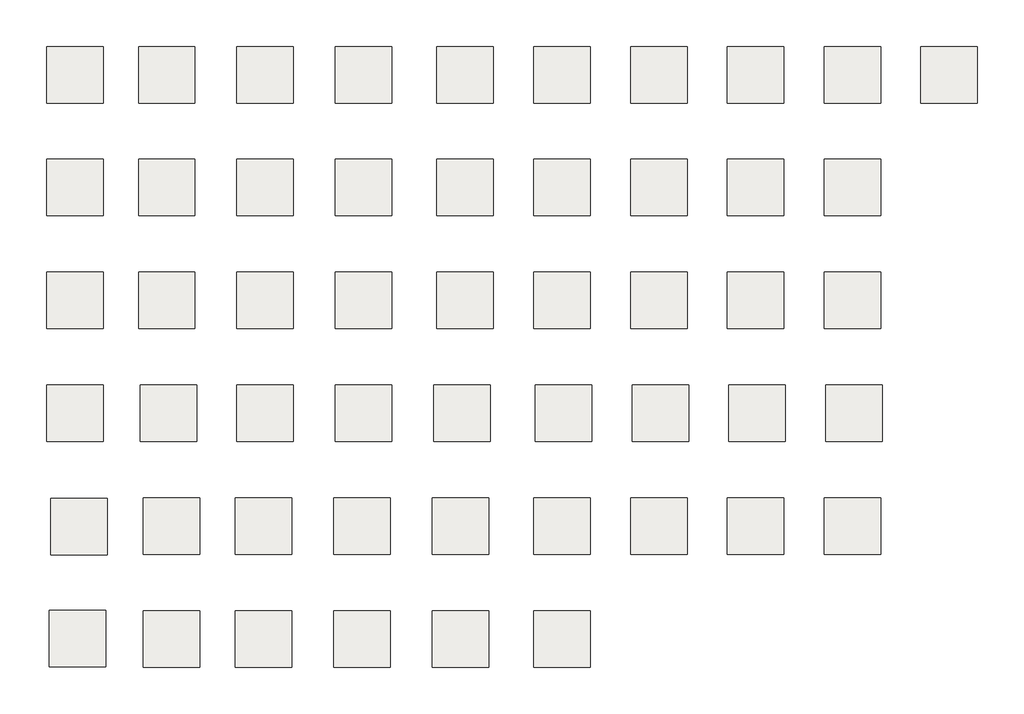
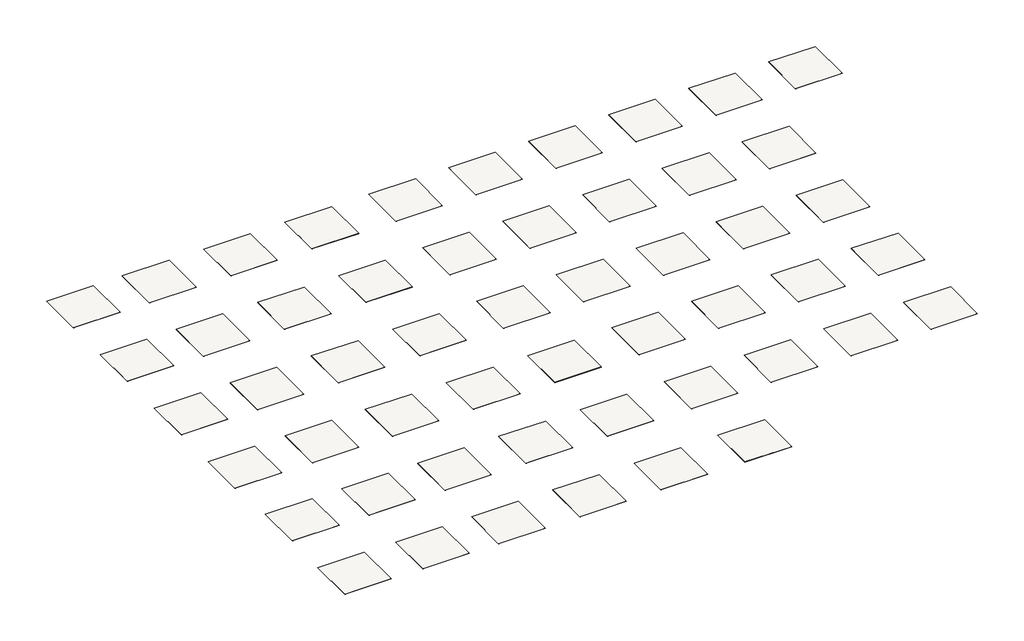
# One storey: 52 slabs.
"""IFC4 building model written with IfcOpenShell, lengths in millimetres."""

import ifcopenshell
import ifcopenshell.guid

model = None  # the IFC model being written
_history = None  # IfcOwnerHistory: only IFC2X3 demands one
_inside = {}  # id of a spatial element -> (the spatial element, [elements in it])
_under = {}  # id of a project, library or spatial element -> (it, [spatial elements below it])
_declared = {}  # id of a project -> (the project, [libraries it declares])
_typed = {}  # id of a type object -> (the type object, [elements of that type])
_made_of = {}  # id of a material, layer set ... -> (it, [elements and type objects made of it])


def new_model(schema):
    """Start an empty IFC model of exactly this schema.

    Asked for "IFC4X3", IfcOpenShell would pick the latest addendum, in which some entities
    have other attributes; the version numbers below select the first issue.
    IFC2X3 requires an IfcOwnerHistory on every rooted entity: one is made here for all.
    """
    global model, _history
    if schema == "IFC4X3":
        model = ifcopenshell.file(schema_version=(4, 3, 0, 0))
    else:
        model = ifcopenshell.file(schema=schema)
    _inside.clear()
    _under.clear()
    _declared.clear()
    _typed.clear()
    _made_of.clear()
    _history = None
    if model.schema == "IFC2X3":
        org = make("IfcOrganization", Name="unknown")
        user = make(
            "IfcPersonAndOrganization",
            ThePerson=make("IfcPerson", FamilyName="unknown"),
            TheOrganization=org,
        )
        app = make(
            "IfcApplication",
            ApplicationDeveloper=org,
            Version="unknown",
            ApplicationFullName="unknown",
            ApplicationIdentifier="unknown",
        )
        _history = make(
            "IfcOwnerHistory",
            OwningUser=user,
            OwningApplication=app,
            ChangeAction="ADDED",
            CreationDate=0,
        )
    return model


def make(cls, **values):
    """One entity of the class cls with the attributes given. An attribute that is None is left unset."""
    return model.create_entity(
        cls, **{name: value for name, value in values.items() if value is not None}
    )


def rooted(cls, **values):
    """An entity with a GlobalId (a new one), such as an element, a storey or a relation."""
    return make(cls, GlobalId=ifcopenshell.guid.new(), OwnerHistory=_history, **values)


def si_unit(unit_type, name, prefix=None):
    """IfcSIUnit, for example si_unit("LENGTHUNIT", "METRE", prefix="MILLI")."""
    return make("IfcSIUnit", UnitType=unit_type, Prefix=prefix, Name=name)


def assignment(units):
    """IfcUnitAssignment: the units of a project."""
    return None if units is None else make("IfcUnitAssignment", Units=units)


def point(xyz):
    """IfcCartesianPoint."""
    return None if xyz is None else make("IfcCartesianPoint", Coordinates=xyz)


def direction(xyz):
    """IfcDirection."""
    return None if xyz is None else make("IfcDirection", DirectionRatios=xyz)


def frame(location, z_axis=None, x_axis=None):
    """IfcAxis2Placement3D, a coordinate frame: its origin and axes. An axis left out is left unset."""
    return make(
        "IfcAxis2Placement3D",
        Location=point(location),
        Axis=direction(z_axis),
        RefDirection=direction(x_axis),
    )


def origin():
    """The frame at (0, 0, 0) with its axes left unset."""
    return frame((0.0, 0.0, 0.0))


def place(relative_to, where):
    """IfcLocalPlacement: puts the frame where relative to a parent placement (None: the world)."""
    return make(
        "IfcLocalPlacement", PlacementRelTo=relative_to, RelativePlacement=where
    )


def context(
    kind, dimensions, precision=None, world=None, true_north=None, identifier=None
):
    """IfcGeometricRepresentationContext, for example the 3D "Model" context."""
    return make(
        "IfcGeometricRepresentationContext",
        ContextIdentifier=identifier,
        ContextType=kind,
        CoordinateSpaceDimension=dimensions,
        Precision=precision,
        WorldCoordinateSystem=world,
        TrueNorth=true_north,
    )


def project(units=None, contexts=None):
    """IfcProject with its units and contexts."""
    return rooted(
        "IfcProject",
        Name="project",
        RepresentationContexts=contexts,
        UnitsInContext=assignment(units),
    )


def spatial(cls, under=None, at=None, **own):
    """A site, building, storey or space (cls), placed at a placement, below another one or the project."""
    s = rooted(cls, ObjectPlacement=at, **own)
    if under is not None:
        _under.setdefault(under.id(), (under, []))[1].append(s)
    return s


def polyline(points):
    """IfcPolyline through the points."""
    return make("IfcPolyline", Points=[point(p) for p in points])


def outline(outer, holes=None, kind="AREA"):
    """IfcArbitraryClosedProfileDef: a profile drawn as a closed curve; with holes, ...WithVoids."""
    if holes is None:
        return make("IfcArbitraryClosedProfileDef", ProfileType=kind, OuterCurve=outer)
    return make(
        "IfcArbitraryProfileDefWithVoids",
        ProfileType=kind,
        OuterCurve=outer,
        InnerCurves=holes,
    )


def extrude(swept, where, along, depth):
    """IfcExtrudedAreaSolid: the profile swept, set in the frame where, extruded along a direction by depth."""
    return make(
        "IfcExtrudedAreaSolid",
        SweptArea=swept,
        Position=where,
        ExtrudedDirection=direction(along),
        Depth=depth,
    )


def shape(context_of_items, identifier, shape_type, items):
    """IfcShapeRepresentation: the items that make up one representation, for example the "Body"."""
    return make(
        "IfcShapeRepresentation",
        ContextOfItems=context_of_items,
        RepresentationIdentifier=identifier,
        RepresentationType=shape_type,
        Items=items,
    )


def made_of(thing, what):
    """Note that an element or type object is made of a material, layer set ...; save() writes the relation."""
    if what is not None:
        _made_of.setdefault(what.id(), (what, []))[1].append(thing)
    return thing


def element(
    cls,
    number,
    at=None,
    inside=None,
    cuts=None,
    type_object=None,
    material=None,
    context=None,
    identifier="Body",
    shape_type=None,
    held_by="IfcProductDefinitionShape",
    body=None,
    shapes=None,
    **own,
):
    """One element of the class cls, such as IfcWall. Its Tag is "e" and its number.

    at: its placement. inside: the storey or other place that contains it. cuts: it is an
    opening in that element (IfcRelVoidsElement). A single representation is given by context,
    identifier, shape_type and body (its items); several are given by shapes. held_by: the class
    of the entity that holds the representations. save() writes the other relations.
    """
    e = rooted(cls, Tag="e%d" % number, ObjectPlacement=at, **own)
    if body is not None:
        shapes = [shape(context, identifier, shape_type, body)]
    if shapes is not None:
        e.Representation = make(held_by, Representations=shapes)
    if inside is not None:
        _inside.setdefault(inside.id(), (inside, []))[1].append(e)
    if cuts is not None:
        rooted(
            "IfcRelVoidsElement", RelatingBuildingElement=cuts, RelatedOpeningElement=e
        )
    if type_object is not None:
        _typed.setdefault(type_object.id(), (type_object, []))[1].append(e)
    return made_of(e, material)


def aggregate(whole, parts):
    """IfcRelAggregates: a whole, such as a stair, and the parts it consists of."""
    return rooted("IfcRelAggregates", RelatingObject=whole, RelatedObjects=parts)


def save(model, path):
    """Write the relations noted so far, then the file.

    IfcRelAggregates (storeys below a building ...), IfcRelContainedInSpatialStructure (elements
    in a storey), IfcRelDefinesByType, IfcRelAssociatesMaterial and IfcRelDeclares: one each for
    every whole, place, type object, material and project.
    """
    for whole, parts in _under.values():
        aggregate(whole, parts)
    for where, things in _inside.values():
        rooted(
            "IfcRelContainedInSpatialStructure",
            RelatedElements=things,
            RelatingStructure=where,
        )
    for kind, things in _typed.values():
        rooted("IfcRelDefinesByType", RelatedObjects=things, RelatingType=kind)
    for what, things in _made_of.values():
        rooted("IfcRelAssociatesMaterial", RelatedObjects=things, RelatingMaterial=what)
    for by, libraries in _declared.values():
        rooted("IfcRelDeclares", RelatingContext=by, RelatedDefinitions=libraries)
    model.write(path)


model = new_model("IFC4")

# Units and contexts
model_context = context("Model", 3, world=origin())
ifc_project = project(units=[si_unit("LENGTHUNIT", "METRE", prefix="MILLI")], contexts=[model_context])

# Site, building, storey
site = spatial("IfcSite", under=ifc_project)
building = spatial("IfcBuilding", under=site)
storey = spatial("IfcBuildingStorey", under=building, Name="Sphera Element homogeneous vinyl", Elevation=0.0)

# Slabs
placement = place(None, origin())
element("IfcSlab", 1, ObjectType="Forbo_Vinyl_Sphera_Element_Collection_50000_White_mm", at=placement, inside=storey, context=model_context, shape_type="SweptSolid", body=[
    extrude(outline(polyline([(-15235.4659113, 5657.9947387), (-15235.4659113, 4957.9947387), (-15935.4659113, 4957.9947387), (-15935.4659113, 5657.9947387), (-15235.4659113, 5657.9947387)])), frame((0.0, 0.0, -2.0), z_axis=(0.0, 0.0, 1.0), x_axis=(1.0, 0.0, 0.0)), (0.0, 0.0, 1.0), 2.0),
])
element("IfcSlab", 2, ObjectType="Forbo_Vinyl_Sphera_Element_Collection_50003_Light-neutral-grey_mm", at=placement, inside=storey, context=model_context, shape_type="SweptSolid", body=[
    extrude(outline(polyline([(-14095.4659113, 5657.9947387), (-14095.4659113, 4957.9947387), (-14795.4659113, 4957.9947387), (-14795.4659113, 5657.9947387), (-14095.4659113, 5657.9947387)])), frame((0.0, 0.0, -2.0), z_axis=(0.0, 0.0, 1.0), x_axis=(1.0, 0.0, 0.0)), (0.0, 0.0, 1.0), 2.0),
])
element("IfcSlab", 3, ObjectType="Forbo_Vinyl_Sphera_Element_Collection_50004_Mid-neutral-grey_mm", at=placement, inside=storey, context=model_context, shape_type="SweptSolid", body=[
    extrude(outline(polyline([(-12875.4659113, 5657.9947387), (-12875.4659113, 4957.9947387), (-13575.4659113, 4957.9947387), (-13575.4659113, 5657.9947387), (-12875.4659113, 5657.9947387)])), frame((0.0, 0.0, -2.0), z_axis=(0.0, 0.0, 1.0), x_axis=(1.0, 0.0, 0.0)), (0.0, 0.0, 1.0), 2.0),
])
element("IfcSlab", 4, ObjectType="Forbo_Vinyl_Sphera_Element_Collection_50005_Dark-neutral-grey_mm", at=placement, inside=storey, context=model_context, shape_type="SweptSolid", body=[
    extrude(outline(polyline([(-11655.4659113, 5657.9947387), (-11655.4659113, 4957.9947387), (-12355.4659113, 4957.9947387), (-12355.4659113, 5657.9947387), (-11655.4659113, 5657.9947387)])), frame((0.0, 0.0, -2.0), z_axis=(0.0, 0.0, 1.0), x_axis=(1.0, 0.0, 0.0)), (0.0, 0.0, 1.0), 2.0),
])
element("IfcSlab", 5, ObjectType="Forbo_Vinyl_Sphera_Element_Collection_50006_Anthracite_mm", at=placement, inside=storey, context=model_context, shape_type="SweptSolid", body=[
    extrude(outline(polyline([(-10395.4659113, 5657.9947387), (-10395.4659113, 4957.9947387), (-11095.4659113, 4957.9947387), (-11095.4659113, 5657.9947387), (-10395.4659113, 5657.9947387)])), frame((0.0, 0.0, -2.0), z_axis=(0.0, 0.0, 1.0), x_axis=(1.0, 0.0, 0.0)), (0.0, 0.0, 1.0), 2.0),
])
element("IfcSlab", 6, ObjectType="Forbo_Vinyl_Sphera_Element_Collection_50008_Silver-grey_mm", at=placement, inside=storey, context=model_context, shape_type="SweptSolid", body=[
    extrude(outline(polyline([(-7995.4659113, 5657.9947387), (-7995.4659113, 4957.9947387), (-8695.4659113, 4957.9947387), (-8695.4659113, 5657.9947387), (-7995.4659113, 5657.9947387)])), frame((0.0, 0.0, -2.0), z_axis=(0.0, 0.0, 1.0), x_axis=(1.0, 0.0, 0.0)), (0.0, 0.0, 1.0), 2.0),
])
element("IfcSlab", 7, ObjectType="Forbo_Vinyl_Sphera_Element_Collection_50009_Lead_mm", at=placement, inside=storey, context=model_context, shape_type="SweptSolid", body=[
    extrude(outline(polyline([(-6795.4659113, 5657.9947387), (-6795.4659113, 4957.9947387), (-7495.4659113, 4957.9947387), (-7495.4659113, 5657.9947387), (-6795.4659113, 5657.9947387)])), frame((0.0, 0.0, -2.0), z_axis=(0.0, 0.0, 1.0), x_axis=(1.0, 0.0, 0.0)), (0.0, 0.0, 1.0), 2.0),
])
element("IfcSlab", 8, ObjectType="Forbo_Vinyl_Sphera_Element_Collection_50010_Iron_mm", at=placement, inside=storey, context=model_context, shape_type="SweptSolid", body=[
    extrude(outline(polyline([(-5595.4659113, 5657.9947387), (-5595.4659113, 4957.9947387), (-6295.4659113, 4957.9947387), (-6295.4659113, 5657.9947387), (-5595.4659113, 5657.9947387)])), frame((0.0, 0.0, -2.0), z_axis=(0.0, 0.0, 1.0), x_axis=(1.0, 0.0, 0.0)), (0.0, 0.0, 1.0), 2.0),
])
element("IfcSlab", 9, ObjectType="Forbo_Vinyl_Sphera_Element_Collection_50011_Steel_mm", at=placement, inside=storey, context=model_context, shape_type="SweptSolid", body=[
    extrude(outline(polyline([(-4395.4659113, 5657.9947387), (-4395.4659113, 4957.9947387), (-5095.4659113, 4957.9947387), (-5095.4659113, 5657.9947387), (-4395.4659113, 5657.9947387)])), frame((0.0, 0.0, -2.0), z_axis=(0.0, 0.0, 1.0), x_axis=(1.0, 0.0, 0.0)), (0.0, 0.0, 1.0), 2.0),
])
element("IfcSlab", 10, ObjectType="Forbo_Vinyl_Sphera_Element_Collection_50017_Ivory_mm", at=placement, inside=storey, context=model_context, shape_type="SweptSolid", body=[
    extrude(outline(polyline([(-15235.4659113, 4257.9947387), (-15235.4659113, 3557.9947387), (-15935.4659113, 3557.9947387), (-15935.4659113, 4257.9947387), (-15235.4659113, 4257.9947387)])), frame((0.0, 0.0, -2.0), z_axis=(0.0, 0.0, 1.0), x_axis=(1.0, 0.0, 0.0)), (0.0, 0.0, 1.0), 2.0),
])
element("IfcSlab", 11, ObjectType="Forbo_Vinyl_Sphera_Element_Collection_50018_Mortar_mm", at=placement, inside=storey, context=model_context, shape_type="SweptSolid", body=[
    extrude(outline(polyline([(-14095.4659113, 4257.9947387), (-14095.4659113, 3557.9947387), (-14795.4659113, 3557.9947387), (-14795.4659113, 4257.9947387), (-14095.4659113, 4257.9947387)])), frame((0.0, 0.0, -2.0), z_axis=(0.0, 0.0, 1.0), x_axis=(1.0, 0.0, 0.0)), (0.0, 0.0, 1.0), 2.0),
])
element("IfcSlab", 12, ObjectType="Forbo_Vinyl_Sphera_Element_Collection_50019_Clay_mm", at=placement, inside=storey, context=model_context, shape_type="SweptSolid", body=[
    extrude(outline(polyline([(-12875.4659113, 4257.9947387), (-12875.4659113, 3557.9947387), (-13575.4659113, 3557.9947387), (-13575.4659113, 4257.9947387), (-12875.4659113, 4257.9947387)])), frame((0.0, 0.0, -2.0), z_axis=(0.0, 0.0, 1.0), x_axis=(1.0, 0.0, 0.0)), (0.0, 0.0, 1.0), 2.0),
])
element("IfcSlab", 13, ObjectType="Forbo_Vinyl_Sphera_Element_Collection_50020_Silt_mm", at=placement, inside=storey, context=model_context, shape_type="SweptSolid", body=[
    extrude(outline(polyline([(-11655.4659113, 4257.9947387), (-11655.4659113, 3557.9947387), (-12355.4659113, 3557.9947387), (-12355.4659113, 4257.9947387), (-11655.4659113, 4257.9947387)])), frame((0.0, 0.0, -2.0), z_axis=(0.0, 0.0, 1.0), x_axis=(1.0, 0.0, 0.0)), (0.0, 0.0, 1.0), 2.0),
])
element("IfcSlab", 14, ObjectType="Forbo_Vinyl_Sphera_Element_Collection_50022_Shell_mm", at=placement, inside=storey, context=model_context, shape_type="SweptSolid", body=[
    extrude(outline(polyline([(-10395.4659113, 4257.9947387), (-10395.4659113, 3557.9947387), (-11095.4659113, 3557.9947387), (-11095.4659113, 4257.9947387), (-10395.4659113, 4257.9947387)])), frame((0.0, 0.0, -2.0), z_axis=(0.0, 0.0, 1.0), x_axis=(1.0, 0.0, 0.0)), (0.0, 0.0, 1.0), 2.0),
])
element("IfcSlab", 15, ObjectType="Forbo_Vinyl_Sphera_Element_Collection_50023_Sand_mm", at=placement, inside=storey, context=model_context, shape_type="SweptSolid", body=[
    extrude(outline(polyline([(-9195.4659113, 4257.9947387), (-9195.4659113, 3557.9947387), (-9895.4659113, 3557.9947387), (-9895.4659113, 4257.9947387), (-9195.4659113, 4257.9947387)])), frame((0.0, 0.0, -2.0), z_axis=(0.0, 0.0, 1.0), x_axis=(1.0, 0.0, 0.0)), (0.0, 0.0, 1.0), 2.0),
])
element("IfcSlab", 16, ObjectType="Forbo_Vinyl_Sphera_Element_Collection_50024_Stone_mm", at=placement, inside=storey, context=model_context, shape_type="SweptSolid", body=[
    extrude(outline(polyline([(-7995.4659113, 4257.9947387), (-7995.4659113, 3557.9947387), (-8695.4659113, 3557.9947387), (-8695.4659113, 4257.9947387), (-7995.4659113, 4257.9947387)])), frame((0.0, 0.0, -2.0), z_axis=(0.0, 0.0, 1.0), x_axis=(1.0, 0.0, 0.0)), (0.0, 0.0, 1.0), 2.0),
])
element("IfcSlab", 17, ObjectType="Forbo_Vinyl_Sphera_Element_Collection_50025_Earth_mm", at=placement, inside=storey, context=model_context, shape_type="SweptSolid", body=[
    extrude(outline(polyline([(-6795.4659113, 4257.9947387), (-6795.4659113, 3557.9947387), (-7495.4659113, 3557.9947387), (-7495.4659113, 4257.9947387), (-6795.4659113, 4257.9947387)])), frame((0.0, 0.0, -2.0), z_axis=(0.0, 0.0, 1.0), x_axis=(1.0, 0.0, 0.0)), (0.0, 0.0, 1.0), 2.0),
])
element("IfcSlab", 18, ObjectType="Forbo_Vinyl_Sphera_Element_Collection_50028_Greige_mm", at=placement, inside=storey, context=model_context, shape_type="SweptSolid", body=[
    extrude(outline(polyline([(-5595.4659113, 4257.9947387), (-5595.4659113, 3557.9947387), (-6295.4659113, 3557.9947387), (-6295.4659113, 4257.9947387), (-5595.4659113, 4257.9947387)])), frame((0.0, 0.0, -2.0), z_axis=(0.0, 0.0, 1.0), x_axis=(1.0, 0.0, 0.0)), (0.0, 0.0, 1.0), 2.0),
])
element("IfcSlab", 19, ObjectType="Forbo_Vinyl_Sphera_Element_Collection_50029_Taupe_mm", at=placement, inside=storey, context=model_context, shape_type="SweptSolid", body=[
    extrude(outline(polyline([(-15235.4659113, 2857.9947387), (-15235.4659113, 2157.9947387), (-15935.4659113, 2157.9947387), (-15935.4659113, 2857.9947387), (-15235.4659113, 2857.9947387)])), frame((0.0, 0.0, -2.0), z_axis=(0.0, 0.0, 1.0), x_axis=(1.0, 0.0, 0.0)), (0.0, 0.0, 1.0), 2.0),
])
element("IfcSlab", 20, ObjectType="Forbo_Vinyl_Sphera_Element_Collection_50037_China-blue_mm", at=placement, inside=storey, context=model_context, shape_type="SweptSolid", body=[
    extrude(outline(polyline([(-14095.4659113, 2857.9947387), (-14095.4659113, 2157.9947387), (-14795.4659113, 2157.9947387), (-14795.4659113, 2857.9947387), (-14095.4659113, 2857.9947387)])), frame((0.0, 0.0, -2.0), z_axis=(0.0, 0.0, 1.0), x_axis=(1.0, 0.0, 0.0)), (0.0, 0.0, 1.0), 2.0),
])
element("IfcSlab", 21, ObjectType="Forbo_Vinyl_Sphera_Element_Collection_50038_Blueberry_mm", at=placement, inside=storey, context=model_context, shape_type="SweptSolid", body=[
    extrude(outline(polyline([(-12875.4659113, 2857.9947387), (-12875.4659113, 2157.9947387), (-13575.4659113, 2157.9947387), (-13575.4659113, 2857.9947387), (-12875.4659113, 2857.9947387)])), frame((0.0, 0.0, -2.0), z_axis=(0.0, 0.0, 1.0), x_axis=(1.0, 0.0, 0.0)), (0.0, 0.0, 1.0), 2.0),
])
element("IfcSlab", 22, ObjectType="Forbo_Vinyl_Sphera_Element_Collection_50062_Storm-grey_mm", at=placement, inside=storey, context=model_context, shape_type="SweptSolid", body=[
    extrude(outline(polyline([(-11655.4659113, 2857.9947387), (-11655.4659113, 2157.9947387), (-12355.4659113, 2157.9947387), (-12355.4659113, 2857.9947387), (-11655.4659113, 2857.9947387)])), frame((0.0, 0.0, -2.0), z_axis=(0.0, 0.0, 1.0), x_axis=(1.0, 0.0, 0.0)), (0.0, 0.0, 1.0), 2.0),
])
element("IfcSlab", 23, ObjectType="Forbo_Vinyl_Sphera_Element_Collection_50063_White-moss_mm", at=placement, inside=storey, context=model_context, shape_type="SweptSolid", body=[
    extrude(outline(polyline([(-10395.4659113, 2857.9947387), (-10395.4659113, 2157.9947387), (-11095.4659113, 2157.9947387), (-11095.4659113, 2857.9947387), (-10395.4659113, 2857.9947387)])), frame((0.0, 0.0, -2.0), z_axis=(0.0, 0.0, 1.0), x_axis=(1.0, 0.0, 0.0)), (0.0, 0.0, 1.0), 2.0),
])
element("IfcSlab", 24, ObjectType="Forbo_Vinyl_Sphera_Element_Collection_50064_Light-moss_mm", at=placement, inside=storey, context=model_context, shape_type="SweptSolid", body=[
    extrude(outline(polyline([(-9195.4659113, 2857.9947387), (-9195.4659113, 2157.9947387), (-9895.4659113, 2157.9947387), (-9895.4659113, 2857.9947387), (-9195.4659113, 2857.9947387)])), frame((0.0, 0.0, -2.0), z_axis=(0.0, 0.0, 1.0), x_axis=(1.0, 0.0, 0.0)), (0.0, 0.0, 1.0), 2.0),
])
element("IfcSlab", 25, ObjectType="Forbo_Vinyl_Sphera_Element_Collection_50065_Moss_mm", at=placement, inside=storey, context=model_context, shape_type="SweptSolid", body=[
    extrude(outline(polyline([(-7995.4659113, 2857.9947387), (-7995.4659113, 2157.9947387), (-8695.4659113, 2157.9947387), (-8695.4659113, 2857.9947387), (-7995.4659113, 2857.9947387)])), frame((0.0, 0.0, -2.0), z_axis=(0.0, 0.0, 1.0), x_axis=(1.0, 0.0, 0.0)), (0.0, 0.0, 1.0), 2.0),
])
element("IfcSlab", 26, ObjectType="Forbo_Vinyl_Sphera_Element_Collection_50066_Flax_mm", at=placement, inside=storey, context=model_context, shape_type="SweptSolid", body=[
    extrude(outline(polyline([(-6795.4659113, 2857.9947387), (-6795.4659113, 2157.9947387), (-7495.4659113, 2157.9947387), (-7495.4659113, 2857.9947387), (-6795.4659113, 2857.9947387)])), frame((0.0, 0.0, -2.0), z_axis=(0.0, 0.0, 1.0), x_axis=(1.0, 0.0, 0.0)), (0.0, 0.0, 1.0), 2.0),
])
element("IfcSlab", 27, ObjectType="Forbo_Vinyl_Sphera_Element_Collection_50067_Straw_mm", at=placement, inside=storey, context=model_context, shape_type="SweptSolid", body=[
    extrude(outline(polyline([(-5595.4659113, 2857.9947387), (-5595.4659113, 2157.9947387), (-6295.4659113, 2157.9947387), (-6295.4659113, 2857.9947387), (-5595.4659113, 2857.9947387)])), frame((0.0, 0.0, -2.0), z_axis=(0.0, 0.0, 1.0), x_axis=(1.0, 0.0, 0.0)), (0.0, 0.0, 1.0), 2.0),
])
element("IfcSlab", 28, ObjectType="Forbo_Vinyl_Sphera_Element_Collection_50068_Hay_mm", at=placement, inside=storey, context=model_context, shape_type="SweptSolid", body=[
    extrude(outline(polyline([(-15235.4659113, 1457.9947387), (-15235.4659113, 757.9947387), (-15935.4659113, 757.9947387), (-15935.4659113, 1457.9947387), (-15235.4659113, 1457.9947387)])), frame((0.0, 0.0, -2.0), z_axis=(0.0, 0.0, 1.0), x_axis=(1.0, 0.0, 0.0)), (0.0, 0.0, 1.0), 2.0),
])
element("IfcSlab", 29, ObjectType="Forbo_Vinyl_Sphera_Element_Collection_50070_Soft-violet_mm", at=placement, inside=storey, context=model_context, shape_type="SweptSolid", body=[
    extrude(outline(polyline([(-12875.4659113, 1457.9947387), (-12875.4659113, 757.9947387), (-13575.4659113, 757.9947387), (-13575.4659113, 1457.9947387), (-12875.4659113, 1457.9947387)])), frame((0.0, 0.0, -2.0), z_axis=(0.0, 0.0, 1.0), x_axis=(1.0, 0.0, 0.0)), (0.0, 0.0, 1.0), 2.0),
])
element("IfcSlab", 30, ObjectType="Forbo_Vinyl_Sphera_Element_Collection_50071_Violet_mm", at=placement, inside=storey, context=model_context, shape_type="SweptSolid", body=[
    extrude(outline(polyline([(-11655.4659113, 1457.9947387), (-11655.4659113, 757.9947387), (-12355.4659113, 757.9947387), (-12355.4659113, 1457.9947387), (-11655.4659113, 1457.9947387)])), frame((0.0, 0.0, -2.0), z_axis=(0.0, 0.0, 1.0), x_axis=(1.0, 0.0, 0.0)), (0.0, 0.0, 1.0), 2.0),
])
element("IfcSlab", 31, ObjectType="Forbo_Vinyl_Sphera_Element_Collection_50072_Light-peach_mm", at=placement, inside=storey, context=model_context, shape_type="SweptSolid", body=[
    extrude(outline(polyline([(-10435.4659113, 1457.9947387), (-10435.4659113, 757.9947387), (-11135.4659113, 757.9947387), (-11135.4659113, 1457.9947387), (-10435.4659113, 1457.9947387)])), frame((0.0, 0.0, -2.0), z_axis=(0.0, 0.0, 1.0), x_axis=(1.0, 0.0, 0.0)), (0.0, 0.0, 1.0), 2.0),
])
element("IfcSlab", 32, ObjectType="Forbo_Vinyl_Sphera_Element_Collection_50073_Peach_mm", at=placement, inside=storey, context=model_context, shape_type="SweptSolid", body=[
    extrude(outline(polyline([(-9175.4659113, 1457.9947387), (-9175.4659113, 757.9947387), (-9875.4659113, 757.9947387), (-9875.4659113, 1457.9947387), (-9175.4659113, 1457.9947387)])), frame((0.0, 0.0, -2.0), z_axis=(0.0, 0.0, 1.0), x_axis=(1.0, 0.0, 0.0)), (0.0, 0.0, 1.0), 2.0),
])
element("IfcSlab", 33, ObjectType="Forbo_Vinyl_Sphera_Element_Collection_50074_Dark-peach_mm", at=placement, inside=storey, context=model_context, shape_type="SweptSolid", body=[
    extrude(outline(polyline([(-7975.4659113, 1457.9947387), (-7975.4659113, 757.9947387), (-8675.4659113, 757.9947387), (-8675.4659113, 1457.9947387), (-7975.4659113, 1457.9947387)])), frame((0.0, 0.0, -2.0), z_axis=(0.0, 0.0, 1.0), x_axis=(1.0, 0.0, 0.0)), (0.0, 0.0, 1.0), 2.0),
])
element("IfcSlab", 34, ObjectType="Forbo_Vinyl_Sphera_Element_Collection_50075_Hibiscus_mm", at=placement, inside=storey, context=model_context, shape_type="SweptSolid", body=[
    extrude(outline(polyline([(-6775.4659113, 1457.9947387), (-6775.4659113, 757.9947387), (-7475.4659113, 757.9947387), (-7475.4659113, 1457.9947387), (-6775.4659113, 1457.9947387)])), frame((0.0, 0.0, -2.0), z_axis=(0.0, 0.0, 1.0), x_axis=(1.0, 0.0, 0.0)), (0.0, 0.0, 1.0), 2.0),
])
element("IfcSlab", 35, ObjectType="Forbo_Vinyl_Sphera_Element_Collection_50076_Pastel-kelp_mm", at=placement, inside=storey, context=model_context, shape_type="SweptSolid", body=[
    extrude(outline(polyline([(-5575.4659113, 1457.9947387), (-5575.4659113, 757.9947387), (-6275.4659113, 757.9947387), (-6275.4659113, 1457.9947387), (-5575.4659113, 1457.9947387)])), frame((0.0, 0.0, -2.0), z_axis=(0.0, 0.0, 1.0), x_axis=(1.0, 0.0, 0.0)), (0.0, 0.0, 1.0), 2.0),
])
element("IfcSlab", 36, ObjectType="Forbo_Vinyl_Sphera_Element_Collection_50077_Kelp_mm", at=placement, inside=storey, context=model_context, shape_type="SweptSolid", body=[
    extrude(outline(polyline([(-15184.5238471, 52.9087835), (-15184.5238471, -647.0912165), (-15884.5238471, -647.0912165), (-15884.5238471, 52.9087835), (-15184.5238471, 52.9087835)])), frame((0.0, 0.0, -2.0), z_axis=(0.0, 0.0, 1.0), x_axis=(1.0, 0.0, 0.0)), (0.0, 0.0, 1.0), 2.0),
])
element("IfcSlab", 37, ObjectType="Forbo_Vinyl_Sphera_Element_Collection_50078_Dark-kelp_mm", at=placement, inside=storey, context=model_context, shape_type="SweptSolid", body=[
    extrude(outline(polyline([(-14035.4659113, 57.9947387), (-14035.4659113, -642.0052613), (-14735.4659113, -642.0052613), (-14735.4659113, 57.9947387), (-14035.4659113, 57.9947387)])), frame((0.0, 0.0, -2.0), z_axis=(0.0, 0.0, 1.0), x_axis=(1.0, 0.0, 0.0)), (0.0, 0.0, 1.0), 2.0),
])
element("IfcSlab", 38, ObjectType="Forbo_Vinyl_Sphera_Element_Collection_50079_Lagoon_mm", at=placement, inside=storey, context=model_context, shape_type="SweptSolid", body=[
    extrude(outline(polyline([(-12895.4659113, 57.9947387), (-12895.4659113, -642.0052613), (-13595.4659113, -642.0052613), (-13595.4659113, 57.9947387), (-12895.4659113, 57.9947387)])), frame((0.0, 0.0, -2.0), z_axis=(0.0, 0.0, 1.0), x_axis=(1.0, 0.0, 0.0)), (0.0, 0.0, 1.0), 2.0),
])
element("IfcSlab", 39, ObjectType="Forbo_Vinyl_Sphera_Element_Collection_50080_Reef-green_mm", at=placement, inside=storey, context=model_context, shape_type="SweptSolid", body=[
    extrude(outline(polyline([(-11675.4659113, 57.9947387), (-11675.4659113, -642.0052613), (-12375.4659113, -642.0052613), (-12375.4659113, 57.9947387), (-11675.4659113, 57.9947387)])), frame((0.0, 0.0, -2.0), z_axis=(0.0, 0.0, 1.0), x_axis=(1.0, 0.0, 0.0)), (0.0, 0.0, 1.0), 2.0),
])
element("IfcSlab", 40, ObjectType="Forbo_Vinyl_Sphera_Element_Collection_50081_Ocean_mm", at=placement, inside=storey, context=model_context, shape_type="SweptSolid", body=[
    extrude(outline(polyline([(-10455.4659113, 57.9947387), (-10455.4659113, -642.0052613), (-11155.4659113, -642.0052613), (-11155.4659113, 57.9947387), (-10455.4659113, 57.9947387)])), frame((0.0, 0.0, -2.0), z_axis=(0.0, 0.0, 1.0), x_axis=(1.0, 0.0, 0.0)), (0.0, 0.0, 1.0), 2.0),
])
element("IfcSlab", 41, ObjectType="Forbo_Vinyl_Sphera_Element_Collection_50082_Lavender-grey_mm", at=placement, inside=storey, context=model_context, shape_type="SweptSolid", body=[
    extrude(outline(polyline([(-9195.4659113, 57.9947387), (-9195.4659113, -642.0052613), (-9895.4659113, -642.0052613), (-9895.4659113, 57.9947387), (-9195.4659113, 57.9947387)])), frame((0.0, 0.0, -2.0), z_axis=(0.0, 0.0, 1.0), x_axis=(1.0, 0.0, 0.0)), (0.0, 0.0, 1.0), 2.0),
])
element("IfcSlab", 42, ObjectType="Forbo_Vinyl_Sphera_Element_Collection_51001_Contrast-black_mm", at=placement, inside=storey, context=model_context, shape_type="SweptSolid", body=[
    extrude(outline(polyline([(-7995.4659113, 57.9947387), (-7995.4659113, -642.0052613), (-8695.4659113, -642.0052613), (-8695.4659113, 57.9947387), (-7995.4659113, 57.9947387)])), frame((0.0, 0.0, -2.0), z_axis=(0.0, 0.0, 1.0), x_axis=(1.0, 0.0, 0.0)), (0.0, 0.0, 1.0), 2.0),
])
element("IfcSlab", 43, ObjectType="Forbo_Vinyl_Sphera_Element_Collection_51004_Contrast-mid-grey_mm", at=placement, inside=storey, context=model_context, shape_type="SweptSolid", body=[
    extrude(outline(polyline([(-6795.4659113, 57.9947387), (-6795.4659113, -642.0052613), (-7495.4659113, -642.0052613), (-7495.4659113, 57.9947387), (-6795.4659113, 57.9947387)])), frame((0.0, 0.0, -2.0), z_axis=(0.0, 0.0, 1.0), x_axis=(1.0, 0.0, 0.0)), (0.0, 0.0, 1.0), 2.0),
])
element("IfcSlab", 44, ObjectType="Forbo_Vinyl_Sphera_Element_Collection_51005_Contrast -dark-grey_mm", at=placement, inside=storey, context=model_context, shape_type="SweptSolid", body=[
    extrude(outline(polyline([(-5595.4659113, 57.9947387), (-5595.4659113, -642.0052613), (-6295.4659113, -642.0052613), (-6295.4659113, 57.9947387), (-5595.4659113, 57.9947387)])), frame((0.0, 0.0, -2.0), z_axis=(0.0, 0.0, 1.0), x_axis=(1.0, 0.0, 0.0)), (0.0, 0.0, 1.0), 2.0),
])
element("IfcSlab", 45, ObjectType="Forbo_Vinyl_Sphera_Element_Collection_51018_Mortar_mm", at=placement, inside=storey, context=model_context, shape_type="SweptSolid", body=[
    extrude(outline(polyline([(-15201.0661781, -1336.9843406), (-15201.0661781, -2036.9843406), (-15901.0661781, -2036.9843406), (-15901.0661781, -1336.9843406), (-15201.0661781, -1336.9843406)])), frame((0.0, 0.0, -2.0), z_axis=(0.0, 0.0, 1.0), x_axis=(1.0, 0.0, 0.0)), (0.0, 0.0, 1.0), 2.0),
])
element("IfcSlab", 46, ObjectType="Forbo_Vinyl_Sphera_Element_Collection_51023_Contrast-sand_mm", at=placement, inside=storey, context=model_context, shape_type="SweptSolid", body=[
    extrude(outline(polyline([(-14035.4659113, -1342.0052613), (-14035.4659113, -2042.0052613), (-14735.4659113, -2042.0052613), (-14735.4659113, -1342.0052613), (-14035.4659113, -1342.0052613)])), frame((0.0, 0.0, -2.0), z_axis=(0.0, 0.0, 1.0), x_axis=(1.0, 0.0, 0.0)), (0.0, 0.0, 1.0), 2.0),
])
element("IfcSlab", 47, ObjectType="Forbo_Vinyl_Sphera_Element_Collection_51037_Contrast-China-blue_mm", at=placement, inside=storey, context=model_context, shape_type="SweptSolid", body=[
    extrude(outline(polyline([(-12895.4659113, -1342.0052613), (-12895.4659113, -2042.0052613), (-13595.4659113, -2042.0052613), (-13595.4659113, -1342.0052613), (-12895.4659113, -1342.0052613)])), frame((0.0, 0.0, -2.0), z_axis=(0.0, 0.0, 1.0), x_axis=(1.0, 0.0, 0.0)), (0.0, 0.0, 1.0), 2.0),
])
element("IfcSlab", 48, ObjectType="Forbo_Vinyl_Sphera_Element_Collection_51054_Contrast-amber_mm", at=placement, inside=storey, context=model_context, shape_type="SweptSolid", body=[
    extrude(outline(polyline([(-11675.4659113, -1342.0052613), (-11675.4659113, -2042.0052613), (-12375.4659113, -2042.0052613), (-12375.4659113, -1342.0052613), (-11675.4659113, -1342.0052613)])), frame((0.0, 0.0, -2.0), z_axis=(0.0, 0.0, 1.0), x_axis=(1.0, 0.0, 0.0)), (0.0, 0.0, 1.0), 2.0),
])
element("IfcSlab", 49, ObjectType="Forbo_Vinyl_Sphera_Element_Collection_51073_Contrast-peach_mm", at=placement, inside=storey, context=model_context, shape_type="SweptSolid", body=[
    extrude(outline(polyline([(-10455.4659113, -1342.0052613), (-10455.4659113, -2042.0052613), (-11155.4659113, -2042.0052613), (-11155.4659113, -1342.0052613), (-10455.4659113, -1342.0052613)])), frame((0.0, 0.0, -2.0), z_axis=(0.0, 0.0, 1.0), x_axis=(1.0, 0.0, 0.0)), (0.0, 0.0, 1.0), 2.0),
])
element("IfcSlab", 50, ObjectType="Forbo_Vinyl_Sphera_Element_Collection_51078_Contrast-kelp_mm", at=placement, inside=storey, context=model_context, shape_type="SweptSolid", body=[
    extrude(outline(polyline([(-9195.4659113, -1342.0052613), (-9195.4659113, -2042.0052613), (-9895.4659113, -2042.0052613), (-9895.4659113, -1342.0052613), (-9195.4659113, -1342.0052613)])), frame((0.0, 0.0, -2.0), z_axis=(0.0, 0.0, 1.0), x_axis=(1.0, 0.0, 0.0)), (0.0, 0.0, 1.0), 2.0),
])
element("IfcSlab", 51, ObjectType="Forbo_Vinyl_Sphera_Element_Collection_50007_Grey-sky_mm", at=placement, inside=storey, context=model_context, shape_type="SweptSolid", body=[
    extrude(outline(polyline([(-9195.4659113, 5657.9947387), (-9195.4659113, 4957.9947387), (-9895.4659113, 4957.9947387), (-9895.4659113, 5657.9947387), (-9195.4659113, 5657.9947387)])), frame((0.0, 0.0, -2.0), z_axis=(0.0, 0.0, 1.0), x_axis=(1.0, 0.0, 0.0)), (0.0, 0.0, 1.0), 2.0),
])
element("IfcSlab", 52, ObjectType="Forbo_Vinyl_Sphera_Element_Collection_50069_Dark-moss_mm", at=placement, inside=storey, context=model_context, shape_type="SweptSolid", body=[
    extrude(outline(polyline([(-14075.4659113, 1457.9947387), (-14075.4659113, 757.9947387), (-14775.4659113, 757.9947387), (-14775.4659113, 1457.9947387), (-14075.4659113, 1457.9947387)])), frame((0.0, 0.0, -2.0), z_axis=(0.0, 0.0, 1.0), x_axis=(1.0, 0.0, 0.0)), (0.0, 0.0, 1.0), 2.0),
])

save(model, "model.ifc")
